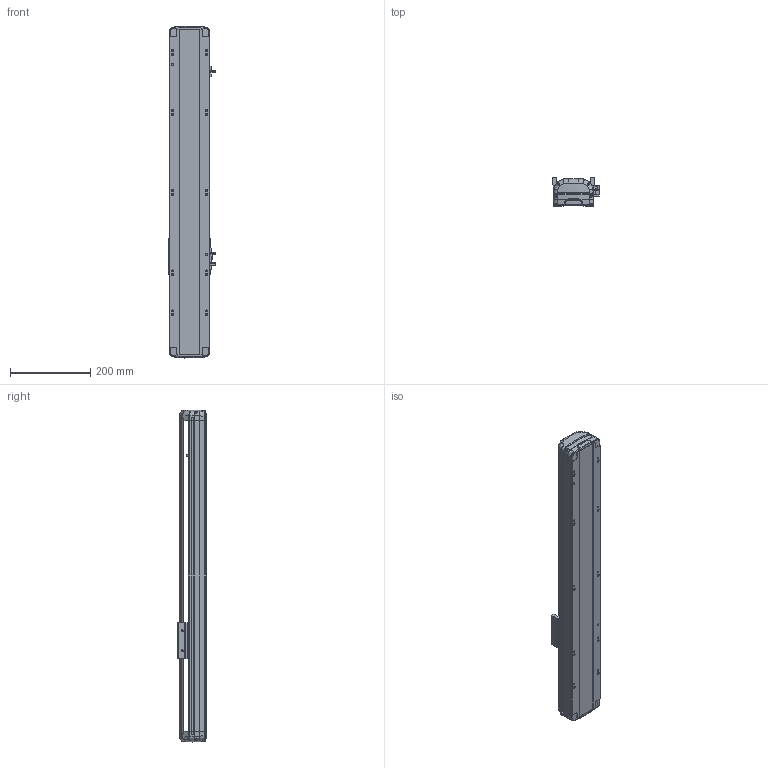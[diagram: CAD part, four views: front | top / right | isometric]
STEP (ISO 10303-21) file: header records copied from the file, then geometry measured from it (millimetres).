
FILE_DESCRIPTION (( 'STEP AP214' ), '1' );
FILE_NAME ('RTH10-XX-450-B-M10-C4.STEP', '2025-10-25T05:13:20', ( 'Microsoft' ), ( 'Microsoft' ), 'SwSTEP 2.0', 'SolidWorks 2018', '' );
FILE_SCHEMA (( 'AUTOMOTIVE_DESIGN' ));
Length unit declared in the file: millimetre
Products named in the file (7): N_OMRON EE-SX672 传感器^RTH10-XX-XX-B-M10-C4; N_RTH12-B-011P-臏倰第菁釱^RTH10-XX-XX-B-M10-C4; N_RTH12-B-007P-奻裔^RTH10-XX-XX-B-M10-C4; RTH10-XX-450-B-M10-C4; N_RTH12-GY-004-賑釱^RTH10-XX-XX-B-M10-C4; N_RTH12-GY-001P^RTH10-XX-XX-B-M10-C4; N_RTH13-L-012覜茼え俋离^RTH10-XX-XX-B-M10-C4
Assembly tree (9 placements, depth 2):
  RTH10-XX-450-B-M10-C4
    N_RTH12-B-011P-臏倰第菁釱^RTH10-XX-XX-B-M10-C4
    N_RTH13-L-012覜茼え俋离^RTH10-XX-XX-B-M10-C4
    N_OMRON EE-SX672 传感器^RTH10-XX-XX-B-M10-C4  x3
    N_RTH12-B-007P-奻裔^RTH10-XX-XX-B-M10-C4
    N_RTH12-GY-004-賑釱^RTH10-XX-XX-B-M10-C4
    N_RTH12-GY-001P^RTH10-XX-XX-B-M10-C4  x2
Bounding box: 116.5 x 70 x 829.29 mm (x, y, z)
Volume: 3136303.2 mm3; surface area: 523070.4 mm2
Topology: 7 solids, 11 shells, 2180 faces, 6100 edges, 3992 vertices
Faces by surface type: plane 1049, bspline 712, cylinder 399, cone 16, torus 4
Entity records: 48704 total; most frequent: CARTESIAN_POINT 21358, ORIENTED_EDGE 6328, DIRECTION 4408, EDGE_CURVE 3170, VERTEX_POINT 2079, LINE 1642, VECTOR 1642, AXIS2_PLACEMENT_3D 1383
